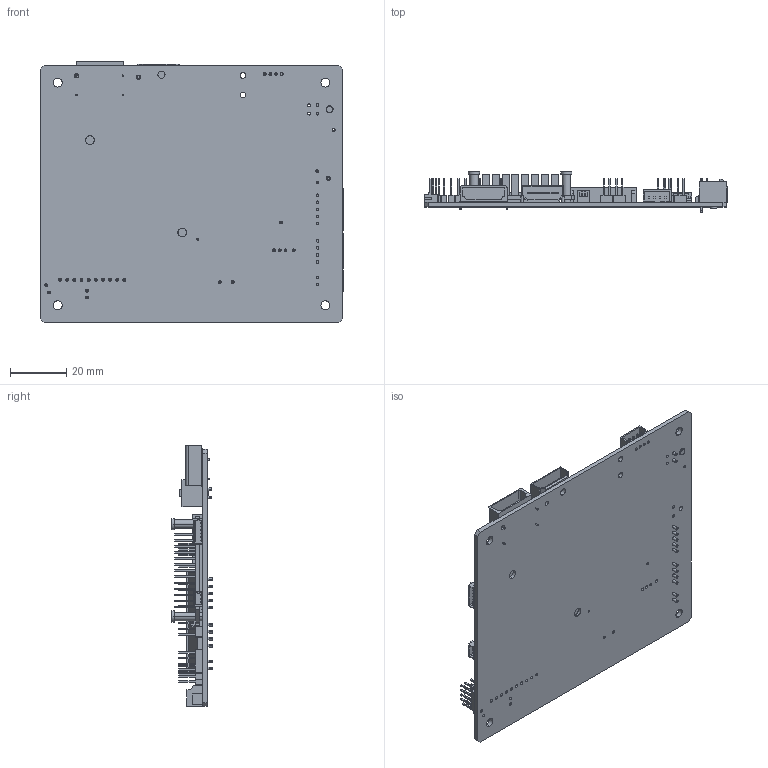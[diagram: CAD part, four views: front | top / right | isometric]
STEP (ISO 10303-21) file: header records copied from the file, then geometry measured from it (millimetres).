
FILE_DESCRIPTION (( 'STEP AP203' ), '1' );
FILE_NAME ('Assy PCB DT-4096 417820010-3 220330.STEP', '2022-03-30T16:00:08', ( '' ), ( '' ), 'SwSTEP 2.0', 'SolidWorks 2021', '' );
FILE_SCHEMA (( 'CONFIG_CONTROL_DESIGN' ));
Length unit declared in the file: inch
Products named in the file (23): 370106014-5 Heatsink Centrans Tech AMH.00101CP.P35; 210018210-3 Conn Hdr 10P RA; 210072103-3 Conn Hdr SMT 3P RA; 210016004-3 Conn Hdr 4P RA; 210061212-3 Conn 12P RA; 210016002-3 Conn Hdr 2P RA; Assy PCB DT-4096 417820010-3 220330; 210034110-3 Header_2.0_2x5; 210017303-3 Conn HDR SMT 3P RA; 210072106-3 Conn Hdr SMT 6P RA; PCB DT-4096 7820002 220327; 215090251-3 LVDS 51 pin; 210021403-3 Header_2.0_3X1; 210034104-3 Header_2.0_2x2; 210034106-3 Header_2.0_2x3; 212200190-3 HDMI; 210018004-3 PH Conn 2.0-F-04p; 210021402-3 Header_2.0_2x1; 212202001-3 Display Port; 210061102-3 1.25-F-2P; 210034108-3 Header_2.0_2x4; 210016005-3 Conn Hdr 5P RA; 210082604-3 Power Plug 2x2
Assembly tree (39 placements, depth 2):
  Assy PCB DT-4096 417820010-3 220330
    PCB DT-4096 7820002 220327
    210016002-3 Conn Hdr 2P RA
    210016004-3 Conn Hdr 4P RA
    210016005-3 Conn Hdr 5P RA
    210017303-3 Conn HDR SMT 3P RA
    210018004-3 PH Conn 2.0-F-04p
    210021402-3 Header_2.0_2x1  x4
    210021403-3 Header_2.0_3X1  x14
    210034104-3 Header_2.0_2x2  x2
    210034106-3 Header_2.0_2x3
    210034108-3 Header_2.0_2x4
    210034110-3 Header_2.0_2x5
    210061102-3 1.25-F-2P
    210061212-3 Conn 12P RA
    210072103-3 Conn Hdr SMT 3P RA
    210072106-3 Conn Hdr SMT 6P RA
    210082604-3 Power Plug 2x2
    212200190-3 HDMI
    212202001-3 Display Port
    215090251-3 LVDS 51 pin
    370106014-5 Heatsink Centrans Tech AMH.00101CP.P35
    210018210-3 Conn Hdr 10P RA
Bounding box: 107.75 x 14.4 x 92.83 mm (x, y, z)
Volume: 24135.1 mm3; surface area: 38777.8 mm2
Topology: 39 solids, 39 shells, 2414 faces, 5641 edges, 3666 vertices
Faces by surface type: plane 2017, cylinder 397
Entity records: 58632 total; most frequent: CARTESIAN_POINT 9627, DIRECTION 9281, ORIENTED_EDGE 9254, EDGE_CURVE 4627, VECTOR 3961, LINE 3961, VERTEX_POINT 2990, AXIS2_PLACEMENT_3D 2660
